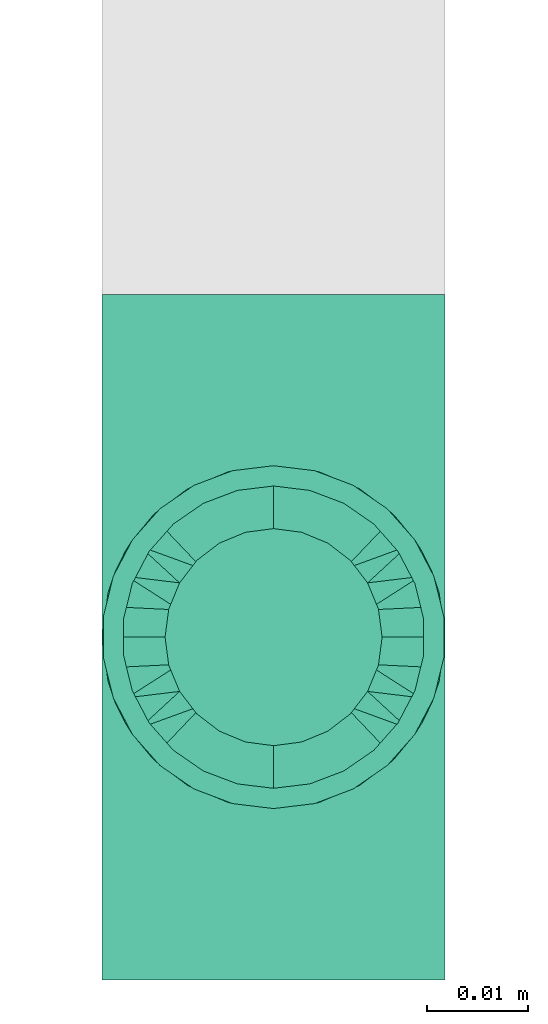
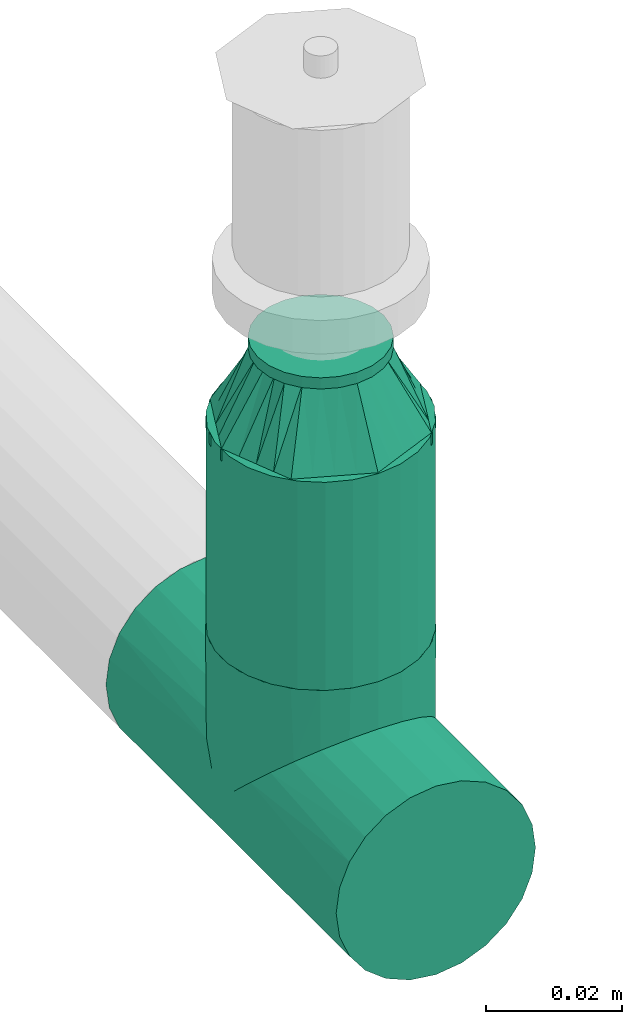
# One storey, part 9 of 94: 2 flow fittings, 1 flow segment.
"""IFC2X3 building model written with IfcOpenShell, lengths in millimetres."""

from ifc_helpers import new_model, entity, si_unit, converted_unit, derived_unit, direction, frame, origin_with_axes, origin_2d_with_axis, place, context, subcontext, project, spatial, hollow_circle, extrude, open_shell, surface_model, source, transform, mapped, type_object, element, save


model = new_model("IFC2X3")

# Units and contexts
model_context = context("Model", 3, precision=0.01, world=frame((0.0, 4.29681676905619e-09, 0.0)), true_north=direction((4.01073788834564e-13, 1.0)))
plan_context = context("Plan", 3, precision=0.01, world=frame((0.0, 4.29681676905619e-09, 0.0)), true_north=direction((4.01073788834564e-13, 1.0)))
body_context = subcontext(model_context, "Body", "Model", "MODEL_VIEW")
ifc_project = project(units=[converted_unit("PLANEANGLEUNIT", "DEGREE", entity("IfcPositiveLengthMeasure", 0.0174532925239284), si_unit("PLANEANGLEUNIT", "RADIAN"), dimensions=[0, 0, 0, 0, 0, 0, 0]), si_unit("AREAUNIT", "SQUARE_METRE"), si_unit("LENGTHUNIT", "METRE", prefix="MILLI"), si_unit("MASSUNIT", "GRAM", prefix="KILO"), si_unit("POWERUNIT", "WATT"), si_unit("PRESSUREUNIT", "PASCAL"), si_unit("FORCEUNIT", "NEWTON", prefix="KILO"), si_unit("ELECTRICCURRENTUNIT", "AMPERE"), si_unit("THERMODYNAMICTEMPERATUREUNIT", "DEGREE_CELSIUS"), si_unit("TIMEUNIT", "SECOND"), si_unit("VOLUMEUNIT", "CUBIC_METRE"), derived_unit("LINEARVELOCITYUNIT", [(si_unit("LENGTHUNIT", "METRE"), 1), (si_unit("TIMEUNIT", "SECOND"), -1)]), derived_unit("VOLUMETRICFLOWRATEUNIT", [(si_unit("VOLUMEUNIT", "CUBIC_METRE"), 1), (si_unit("TIMEUNIT", "SECOND"), -1)]), derived_unit("THERMALTRANSMITTANCEUNIT", [(si_unit("POWERUNIT", "WATT"), 1), (si_unit("THERMODYNAMICTEMPERATUREUNIT", "KELVIN"), -1), (si_unit("AREAUNIT", "SQUARE_METRE"), -1)])], contexts=[model_context, plan_context])

# Site, building, storey
site_placement = place(None, frame((0.0, -4.29681676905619e-09, 0.0), z_axis=(0.0, 0.0, 1.0), x_axis=(1.0, 0.0, 0.0)))
site = spatial("IfcSite", under=ifc_project, at=site_placement, CompositionType="ELEMENT")
building_placement = place(site_placement, frame((0.0, 4.29681676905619e-09, 0.0), z_axis=(0.0, 0.0, 1.0), x_axis=(1.0, 0.0, 0.0)))
building = spatial("IfcBuilding", under=site, at=building_placement, Name="mc-building", CompositionType="ELEMENT")
storey_placement = place(building_placement, frame((0.0, 0.0, 200300.0), z_axis=(0.0, 0.0, 1.0), x_axis=(1.0, 0.0, 0.0)))
storey = spatial("IfcBuildingStorey", under=building, at=storey_placement, Name="Nivå C", CompositionType="ELEMENT", Elevation=200300.0)

# Flow fittings
pipe_fitting_type_1 = type_object("IfcPipeFittingType", Name="magi_pipe_fe_tee_centric_90_NOR", PredefinedType="JUNCTION")
shared_shape_1 = source(origin_with_axes(), body_context, "Body", "SurfaceModel", [
    surface_model("IfcShellBasedSurfaceModel", [(-33.8, 4.37404, -16.32415), (-33.8, 0.0, -16.9), (-33.8, 16.32415, -4.37404), (-33.8, 8.45, -14.63583), (-33.8, 11.9501, -11.9501), (-33.8, 14.63583, -8.45), (-33.8, -16.9, 0.0), (-33.8, -11.9501, -11.9501), (-33.8, -14.63583, -8.45), (-33.8, -8.45, -14.63583), (-33.8, -4.37404, -16.32415), (-33.8, -16.32415, -4.37404), (-33.8, 14.63583, 8.45), (-33.8, 16.32415, 4.37404), (-33.8, -8.45, 14.63583), (-33.8, 8.45, 14.63583), (-33.8, 11.9501, 11.9501), (-33.8, 4.37404, 16.32415), (-33.8, 0.0, 16.9), (-33.8, -11.9501, 11.9501), (-33.8, -14.63583, 8.45), (-33.8, -16.32415, 4.37404), (-33.8, -4.37404, 16.32415), (-33.8, 16.9, 0.0), (33.8, 4.37404, -16.32415), (33.8, -16.9, 0.0), (33.8, 0.0, -16.9), (33.8, 14.63583, -8.45), (33.8, 8.45, -14.63583), (33.8, 16.32415, -4.37404), (33.8, 11.9501, -11.9501), (33.8, -16.32415, 4.37404), (33.8, -8.45, -14.63583), (33.8, -4.37404, -16.32415), (33.8, -11.9501, -11.9501), (33.8, -14.63583, -8.45), (33.8, -16.32415, -4.37404), (33.8, 16.32415, 4.37404), (33.8, 8.45, 14.63583), (33.8, 14.63583, 8.45), (33.8, 11.9501, 11.9501), (33.8, -8.45, 14.63583), (33.8, 4.37404, 16.32415), (33.8, -14.63583, 8.45), (33.8, -11.9501, 11.9501), (33.8, 0.0, 16.9), (33.8, -4.37404, 16.32415), (33.8, 16.9, 0.0), (16.28698, -16.28698, 4.51047), (16.9, -16.9, 0.0), (14.62704, -14.62704, 8.4652), (9.47213, -9.47213, 13.99602), (12.26343, -12.26343, 11.62834), (-16.9, -16.9, 0.0), (-16.28698, -16.28698, 4.51047), (-14.62704, -14.62704, 8.4652), (-12.26343, -12.26343, 11.62834), (-9.47213, -9.47213, 13.99602), (-6.42894, -6.42894, 15.62942), (6.42894, -6.42894, 15.62942), (3.24522, -3.24522, 16.58549), (0.0, 0.0, 16.9), (-3.24522, -3.24522, 16.58549), (3.24522, -3.24522, -16.58549), (0.0, 0.0, -16.9), (-3.24522, -3.24522, -16.58549), (-6.42894, -6.42894, -15.62942), (6.42894, -6.42894, -15.62942), (9.47213, -9.47213, -13.99602), (12.26343, -12.26343, -11.62834), (14.62704, -14.62704, -8.4652), (16.28698, -16.28698, -4.51047), (-9.47213, -9.47213, -13.99602), (-12.26343, -12.26343, -11.62834), (-16.28698, -16.28698, -4.51047), (-14.62704, -14.62704, -8.4652), (4.37404, -25.35, -16.32415), (-16.9, -25.35, 0.0), (0.0, -25.35, -16.9), (14.63583, -25.35, -8.45), (8.45, -25.35, -14.63583), (16.32415, -25.35, -4.37404), (11.9501, -25.35, -11.9501), (-11.9501, -25.35, -11.9501), (-8.45, -25.35, -14.63583), (-4.37404, -25.35, -16.32415), (-14.63583, -25.35, -8.45), (-16.32415, -25.35, -4.37404), (16.9, -25.35, 0.0), (8.45, -25.35, 14.63583), (16.32415, -25.35, 4.37404), (14.63583, -25.35, 8.45), (-8.45, -25.35, 14.63583), (11.9501, -25.35, 11.9501), (4.37404, -25.35, 16.32415), (-16.32415, -25.35, 4.37404), (-11.9501, -25.35, 11.9501), (-14.63583, -25.35, 8.45), (0.0, -25.35, 16.9), (-4.37404, -25.35, 16.32415)], [open_shell([[[0, 1, 2]], [[3, 0, 4]], [[0, 2, 5]], [[4, 0, 5]], [[6, 2, 1]], [[7, 8, 9]], [[1, 10, 9]], [[11, 6, 8]], [[1, 9, 8]], [[1, 8, 6]], [[6, 12, 2]], [[12, 13, 2]], [[14, 12, 6]], [[12, 14, 15]], [[16, 12, 15]], [[17, 15, 18]], [[19, 14, 20]], [[21, 20, 14]], [[22, 18, 14]], [[14, 6, 21]], [[14, 18, 15]], [[23, 2, 13]], [[24, 25, 26]], [[27, 24, 28]], [[27, 29, 24]], [[27, 28, 30]], [[31, 25, 24]], [[26, 32, 33]], [[26, 34, 32]], [[35, 25, 36]], [[35, 34, 26]], [[25, 35, 26]], [[24, 29, 31]], [[29, 37, 38]], [[38, 37, 39]], [[38, 31, 29]], [[38, 39, 40]], [[41, 38, 42]], [[43, 41, 44]], [[41, 43, 31]], [[41, 45, 46]], [[41, 31, 38]], [[42, 45, 41]], [[29, 47, 37]], [[31, 43, 48]], [[25, 31, 49]], [[49, 31, 48]], [[43, 50, 48]], [[44, 41, 51]], [[50, 43, 52]], [[51, 52, 44]], [[52, 43, 44]], [[53, 54, 21]], [[53, 21, 6]], [[21, 54, 20]], [[54, 55, 20]], [[56, 57, 19]], [[19, 20, 56]], [[19, 57, 14]], [[56, 20, 55]], [[14, 57, 58]], [[51, 41, 59]], [[60, 45, 61]], [[59, 46, 60]], [[46, 59, 41]], [[60, 46, 45]], [[61, 45, 42]], [[39, 37, 13]], [[16, 38, 40]], [[12, 40, 39]], [[42, 38, 15]], [[23, 37, 47]], [[62, 61, 18]], [[62, 22, 58]], [[22, 62, 18]], [[58, 22, 14]], [[61, 17, 18]], [[42, 17, 61]], [[15, 17, 42]], [[15, 38, 16]], [[12, 16, 40]], [[13, 12, 39]], [[37, 23, 13]], [[5, 27, 30]], [[23, 47, 29]], [[30, 28, 3]], [[27, 2, 29]], [[26, 33, 63]], [[26, 64, 24]], [[64, 26, 63]], [[28, 24, 0]], [[64, 0, 24]], [[4, 30, 3]], [[2, 27, 5]], [[5, 30, 4]], [[2, 23, 29]], [[65, 66, 10]], [[1, 0, 64]], [[1, 65, 10]], [[66, 9, 10]], [[0, 3, 28]], [[1, 64, 65]], [[63, 33, 67]], [[32, 34, 68]], [[69, 68, 34]], [[35, 70, 69]], [[69, 34, 35]], [[32, 68, 67]], [[36, 25, 49]], [[36, 71, 35]], [[71, 36, 49]], [[35, 71, 70]], [[72, 9, 66]], [[72, 7, 9]], [[7, 72, 73]], [[7, 73, 8]], [[74, 53, 11]], [[75, 74, 8]], [[74, 11, 8]], [[11, 53, 6]], [[75, 8, 73]], [[32, 67, 33]], [[76, 77, 78]], [[79, 76, 80]], [[79, 81, 76]], [[79, 80, 82]], [[77, 76, 81]], [[78, 83, 84]], [[84, 85, 78]], [[86, 77, 87]], [[83, 78, 86]], [[77, 86, 78]], [[81, 88, 77]], [[89, 88, 90]], [[89, 90, 91]], [[92, 77, 89]], [[89, 91, 93]], [[92, 89, 94]], [[95, 96, 97]], [[96, 95, 92]], [[92, 98, 99]], [[95, 77, 92]], [[94, 98, 92]], [[89, 77, 88]], [[77, 95, 53]], [[54, 53, 95]], [[97, 96, 56]], [[96, 92, 57]], [[95, 97, 54]], [[58, 92, 99]], [[55, 54, 97]], [[56, 55, 97]], [[58, 57, 92]], [[98, 61, 62]], [[58, 99, 62]], [[56, 96, 57]], [[62, 99, 98]], [[94, 60, 98]], [[89, 59, 94]], [[91, 90, 48]], [[52, 93, 91]], [[93, 51, 89]], [[49, 90, 88]], [[59, 60, 94]], [[51, 59, 89]], [[49, 48, 90]], [[50, 52, 91]], [[48, 50, 91]], [[51, 93, 52]], [[98, 60, 61]], [[88, 81, 49]], [[71, 49, 81]], [[79, 82, 69]], [[82, 80, 68]], [[81, 79, 71]], [[67, 80, 76]], [[70, 71, 79]], [[69, 70, 79]], [[67, 68, 80]], [[78, 64, 63]], [[67, 76, 63]], [[69, 82, 68]], [[63, 76, 78]], [[85, 65, 78]], [[84, 66, 85]], [[86, 87, 74]], [[86, 73, 83]], [[72, 84, 83]], [[53, 87, 77]], [[66, 65, 85]], [[72, 66, 84]], [[53, 74, 87]], [[75, 73, 86]], [[74, 75, 86]], [[72, 83, 73]], [[78, 65, 64]]])]),
])
flow_fitting_1_placement = place(storey_placement, frame((521496.81783, 400928.19532, 2900.0), z_axis=(-1.0, 0.0, 0.0), x_axis=(0.0, 1.0, 0.0)))
element("IfcFlowFitting", 1, at=flow_fitting_1_placement, inside=storey, type_object=pipe_fitting_type_1, Name="magi_pipe_fe_tee_centric_90_NOR", context=body_context, shape_type="MappedRepresentation", body=[
    mapped(shared_shape_1, transform((0.0, 0.0, 0.0), scale=1.0)),
])
pipe_fitting_type_2 = type_object("IfcPipeFittingType", Name="magi_pipe_fe_reducer_centric_short_NOR", PredefinedType="TRANSITION")
shared_shape_2 = source(origin_with_axes(), body_context, "Body", "SurfaceModel", [
    surface_model("IfcShellBasedSurfaceModel", [(14.4, 5.35, -9.26647), (14.4, 0.0, -10.7), (14.4, 2.76936, -10.33541), (14.4, 10.33541, -2.76936), (14.4, 7.56604, -7.56604), (14.4, -10.33541, -2.76936), (14.4, 9.26647, -5.35), (14.4, 0.0, 10.7), (14.4, -5.35, -9.26647), (14.4, -2.76936, -10.33541), (14.4, -7.56604, -7.56604), (14.4, -9.26647, -5.35), (14.4, 10.7, 0.0), (14.4, 10.33541, 2.76936), (14.4, 9.26647, 5.35), (14.4, 7.56604, 7.56604), (14.4, 2.76936, 10.33541), (14.4, 5.35, 9.26647), (14.4, -10.33541, 2.76936), (14.4, -7.56604, 7.56604), (14.4, -9.26647, 5.35), (14.4, -10.7, 0.0), (14.4, -2.76936, 10.33541), (14.4, -5.35, 9.26647), (12.4, 2.76936, 10.33541), (12.4, -10.33541, -2.76936), (12.4, 0.0, 10.7), (12.4, 5.35, 9.26647), (12.4, 7.56604, 7.56604), (12.4, 9.26647, 5.35), (12.4, 10.33541, 2.76936), (12.4, -10.33541, 2.76936), (12.4, -2.76936, 10.33541), (12.4, -7.56604, 7.56604), (12.4, -5.35, 9.26647), (12.4, -9.26647, 5.35), (12.4, -10.7, 0.0), (12.4, 10.33541, -2.76936), (12.4, 5.35, -9.26647), (12.4, 9.26647, -5.35), (12.4, 7.56604, -7.56604), (12.4, 2.76936, -10.33541), (12.4, -9.26647, -5.35), (12.4, -5.35, -9.26647), (12.4, -7.56604, -7.56604), (12.4, 0.0, -10.7), (12.4, -2.76936, -10.33541), (12.4, 10.7, 0.0), (-2.0, 11.9501, 11.9501), (-2.0, 0.0, 16.9), (-2.0, 4.37404, 16.32415), (-2.0, 8.45, 14.63583), (-2.0, 14.63583, 8.45), (-2.0, 16.32415, 4.37404), (-2.0, -16.32415, 4.37404), (-2.0, -8.45, 14.63583), (-2.0, -14.63583, 8.45), (-2.0, -11.9501, 11.9501), (-2.0, -4.37404, 16.32415), (-2.0, -16.32415, -4.37404), (-2.0, -16.9, 0.0), (-2.0, -8.45, -14.63583), (-2.0, 16.32415, -4.37404), (-2.0, 11.9501, -11.9501), (-2.0, 14.63583, -8.45), (-2.0, 8.45, -14.63583), (-2.0, 4.37404, -16.32415), (-2.0, 0.0, -16.9), (-2.0, -11.9501, -11.9501), (-2.0, -14.63583, -8.45), (-2.0, -4.37404, -16.32415), (-2.0, 16.9, 0.0), (0.0, 4.37404, -16.32415), (0.0, 8.45, -14.63583), (0.0, 11.9501, -11.9501), (0.0, 0.0, -16.9), (0.0, 16.32415, -4.37404), (0.0, 16.32415, 4.37404), (0.0, 14.63583, -8.45), (0.0, -8.45, -14.63583), (0.0, -4.37404, -16.32415), (0.0, -11.9501, -11.9501), (0.0, -16.32415, -4.37404), (0.0, -14.63583, -8.45), (0.0, -16.32415, 4.37404), (0.0, 16.9, 0.0), (0.0, 14.63583, 8.45), (0.0, 11.9501, 11.9501), (0.0, 4.37404, 16.32415), (0.0, 8.45, 14.63583), (0.0, 0.0, 16.9), (0.0, -14.63583, 8.45), (0.0, -16.9, 0.0), (0.0, -8.45, 14.63583), (0.0, -11.9501, 11.9501), (0.0, -4.37404, 16.32415), (12.4, 9.3625, -2.31662), (0.0, 14.42505, -5.97505), (0.0, 15.66253, -2.98753), (12.4, -6.6875, -6.94985), (0.0, -13.18758, -8.96258), (0.0, 2.98753, -15.66253), (12.4, 0.0, -9.26647), (12.4, 6.6875, -6.94985), (0.0, 8.96258, -13.18758), (12.4, -9.3625, -2.31662), (0.0, -15.66253, -2.98753), (0.0, -14.42505, -5.97505), (0.0, 5.97505, -14.42505), (0.0, -2.98753, -15.66253), (0.0, -8.96258, -13.18758), (0.0, 13.18758, -8.96258), (12.4, 8.025, -4.63324), (12.4, -2.675, -9.26647), (12.4, 2.675, -9.26647), (0.0, -5.97505, -14.42505), (12.4, -8.025, -4.63324), (12.4, -9.3625, 2.31662), (0.0, -14.42505, 5.97505), (0.0, -15.66253, 2.98753), (12.4, 6.6875, 6.94985), (0.0, 13.18758, 8.96258), (0.0, -2.98753, 15.66253), (12.4, 0.0, 9.26647), (12.4, -6.6875, 6.94985), (0.0, -8.96258, 13.18758), (12.4, 9.3625, 2.31662), (0.0, 15.66253, 2.98753), (0.0, 14.42505, 5.97505), (0.0, -5.97505, 14.42505), (0.0, 2.98753, 15.66253), (0.0, 8.96258, 13.18758), (0.0, -13.18758, 8.96258), (12.4, -8.025, 4.63324), (12.4, 2.675, 9.26647), (12.4, -2.675, 9.26647), (0.0, 5.97505, 14.42505), (12.4, 8.025, 4.63324)], [open_shell([[[0, 1, 2]], [[3, 0, 4]], [[5, 0, 3]], [[3, 4, 6]], [[7, 5, 3]], [[1, 8, 9]], [[1, 0, 8]], [[10, 5, 11]], [[5, 10, 8]], [[0, 5, 8]], [[3, 12, 13]], [[13, 14, 15]], [[13, 15, 16]], [[7, 3, 16]], [[16, 15, 17]], [[7, 18, 5]], [[18, 19, 20]], [[21, 5, 18]], [[19, 22, 23]], [[22, 19, 18]], [[7, 22, 18]], [[13, 16, 3]], [[24, 25, 26]], [[27, 25, 24]], [[28, 29, 30]], [[28, 25, 27]], [[31, 26, 25]], [[32, 33, 34]], [[33, 32, 31]], [[33, 31, 35]], [[32, 26, 31]], [[31, 25, 36]], [[30, 37, 28]], [[25, 28, 37]], [[38, 37, 39]], [[37, 38, 25]], [[38, 39, 40]], [[41, 25, 38]], [[42, 43, 44]], [[43, 42, 25]], [[43, 45, 46]], [[43, 25, 41]], [[41, 45, 43]], [[37, 30, 47]], [[25, 5, 36]], [[42, 11, 25]], [[8, 44, 43]], [[42, 44, 10]], [[9, 43, 46]], [[25, 11, 5]], [[5, 21, 36]], [[9, 8, 43]], [[10, 44, 8]], [[10, 11, 42]], [[1, 9, 46]], [[46, 45, 1]], [[41, 2, 45]], [[38, 0, 41]], [[6, 40, 39]], [[38, 40, 4]], [[3, 39, 37]], [[38, 4, 0]], [[0, 2, 41]], [[12, 3, 37]], [[6, 39, 3]], [[6, 4, 40]], [[47, 12, 37]], [[45, 2, 1]], [[30, 13, 47]], [[29, 14, 30]], [[17, 28, 27]], [[29, 28, 15]], [[16, 27, 24]], [[30, 14, 13]], [[13, 12, 47]], [[16, 17, 27]], [[15, 28, 17]], [[15, 14, 29]], [[7, 16, 24]], [[24, 26, 7]], [[32, 22, 26]], [[34, 23, 32]], [[20, 33, 35]], [[34, 33, 19]], [[18, 35, 31]], [[34, 19, 23]], [[23, 22, 32]], [[21, 18, 31]], [[20, 35, 18]], [[20, 19, 33]], [[36, 21, 31]], [[26, 22, 7]], [[48, 49, 50]], [[48, 50, 51]], [[48, 52, 53]], [[48, 53, 49]], [[49, 53, 54]], [[55, 56, 57]], [[55, 58, 49]], [[56, 55, 49]], [[49, 54, 56]], [[54, 59, 60]], [[54, 53, 61]], [[53, 62, 63]], [[63, 62, 64]], [[63, 65, 66]], [[61, 53, 63]], [[67, 63, 66]], [[59, 68, 69]], [[68, 59, 61]], [[61, 67, 70]], [[59, 54, 61]], [[63, 67, 61]], [[53, 71, 62]], [[72, 73, 74]], [[75, 72, 74]], [[74, 76, 77]], [[76, 74, 78]], [[74, 77, 79]], [[75, 79, 80]], [[75, 74, 79]], [[81, 82, 83]], [[82, 81, 79]], [[79, 84, 82]], [[77, 76, 85]], [[77, 86, 87]], [[77, 87, 88]], [[88, 84, 79]], [[88, 87, 89]], [[84, 88, 90]], [[90, 91, 84]], [[92, 82, 84]], [[91, 93, 94]], [[91, 90, 93]], [[93, 90, 95]], [[79, 77, 88]], [[59, 82, 60]], [[69, 83, 59]], [[79, 68, 61]], [[69, 68, 81]], [[80, 61, 70]], [[59, 83, 82]], [[82, 92, 60]], [[80, 79, 61]], [[81, 68, 79]], [[81, 83, 69]], [[75, 80, 70]], [[70, 67, 75]], [[66, 72, 67]], [[65, 73, 66]], [[78, 63, 64]], [[65, 63, 74]], [[76, 64, 62]], [[65, 74, 73]], [[73, 72, 66]], [[85, 76, 62]], [[78, 64, 76]], [[78, 74, 63]], [[71, 85, 62]], [[67, 72, 75]], [[53, 77, 71]], [[52, 86, 53]], [[89, 48, 51]], [[52, 48, 87]], [[88, 51, 50]], [[53, 86, 77]], [[77, 85, 71]], [[88, 89, 51]], [[87, 48, 89]], [[87, 86, 52]], [[90, 88, 50]], [[50, 49, 90]], [[58, 95, 49]], [[55, 93, 58]], [[91, 57, 56]], [[55, 57, 94]], [[84, 56, 54]], [[55, 94, 93]], [[93, 95, 58]], [[92, 84, 54]], [[91, 56, 84]], [[91, 94, 57]], [[60, 92, 54]], [[49, 95, 90]], [[27, 34, 47]], [[47, 34, 43]], [[43, 38, 47]], [[43, 34, 36]], [[90, 87, 94]], [[92, 94, 87]], [[87, 74, 92]], [[75, 92, 74]], [[81, 92, 75]], [[74, 87, 85]], [[96, 97, 98]], [[81, 99, 100]], [[101, 102, 75]], [[98, 85, 47]], [[74, 103, 104]], [[104, 103, 38]], [[105, 106, 107]], [[38, 108, 104]], [[102, 109, 75]], [[110, 99, 81]], [[47, 96, 98]], [[103, 111, 112]], [[109, 102, 113]], [[36, 92, 106]], [[102, 101, 114]], [[110, 115, 43]], [[96, 112, 97]], [[107, 116, 105]], [[36, 106, 105]], [[113, 115, 109]], [[43, 115, 113]], [[116, 107, 100]], [[108, 38, 114]], [[111, 103, 74]], [[111, 97, 112]], [[99, 110, 43]], [[116, 100, 99]], [[101, 108, 114]], [[117, 118, 119]], [[87, 120, 121]], [[122, 123, 90]], [[119, 92, 36]], [[94, 124, 125]], [[125, 124, 34]], [[126, 127, 128]], [[34, 129, 125]], [[123, 130, 90]], [[131, 120, 87]], [[36, 117, 119]], [[124, 132, 133]], [[130, 123, 134]], [[47, 85, 127]], [[123, 122, 135]], [[131, 136, 27]], [[117, 133, 118]], [[128, 137, 126]], [[47, 127, 126]], [[134, 136, 130]], [[27, 136, 134]], [[137, 128, 121]], [[129, 34, 135]], [[132, 124, 94]], [[132, 118, 133]], [[120, 131, 27]], [[137, 121, 120]], [[122, 129, 135]]])]),
])
flow_fitting_2_placement = place(storey_placement, frame((521496.81783, 400928.19532, 2962.64799999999), z_axis=(-1.0, 0.0, 0.0), x_axis=(0.0, 0.0, 1.0)))
element("IfcFlowFitting", 2, at=flow_fitting_2_placement, inside=storey, type_object=pipe_fitting_type_2, Name="magi_pipe_fe_reducer_centric_short_NOR", context=body_context, shape_type="MappedRepresentation", body=[
    mapped(shared_shape_2, transform((0.0, 0.0, 0.0), scale=1.0)),
])

# Flow segment
pipe_segment_type = type_object("IfcPipeSegmentType", Name="Stålrør normaltykke", PredefinedType="RIGIDSEGMENT")
shared_shape_3 = source(origin_with_axes(), body_context, "Body", "SweptSolid", [
    extrude(hollow_circle(Radius=16.9, WallThickness=2.0, at=origin_2d_with_axis()), frame((0.0, 0.0, 0.0), z_axis=(1.0, 0.0, 0.0), x_axis=(0.0, 1.0, 0.0)), (0.0, 0.0, 1.0), 37.3),
])
flow_segment_placement = place(storey_placement, frame((521496.81783, 400928.19532, 2925.35000000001), z_axis=(-1.0, 0.0, 0.0), x_axis=(0.0, 0.0, 1.0)))
element("IfcFlowSegment", 3, at=flow_segment_placement, inside=storey, type_object=pipe_segment_type, Name="Stålrør normaltykke", context=body_context, shape_type="MappedRepresentation", body=[
    mapped(shared_shape_3, transform((0.0, 0.0, 0.0), scale=1.0)),
])

save(model, "model.ifc")
